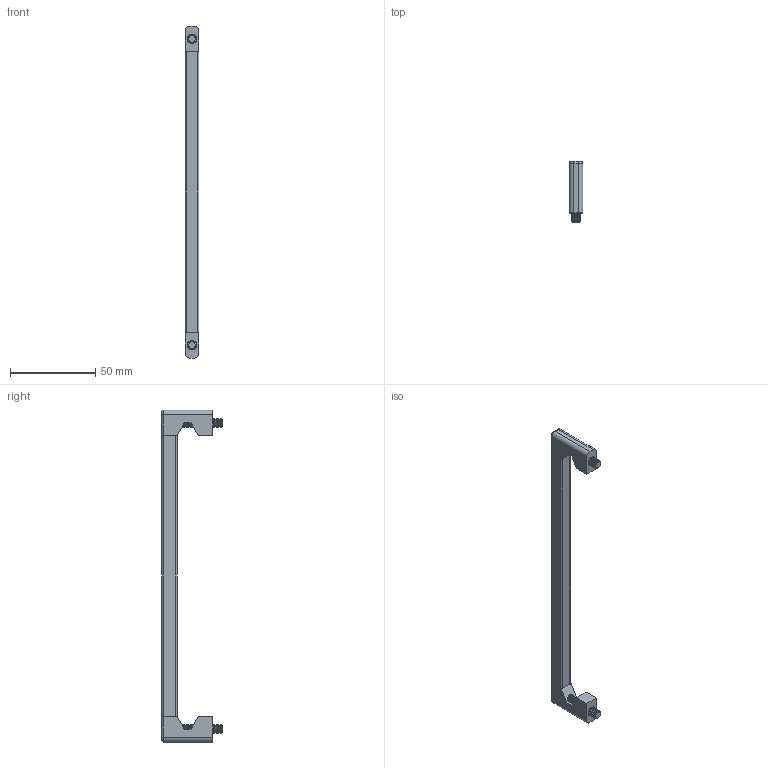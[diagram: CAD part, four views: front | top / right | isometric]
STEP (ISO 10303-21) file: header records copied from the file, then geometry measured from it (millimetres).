
FILE_DESCRIPTION (( 'STEP AP203' ), '1' );
FILE_NAME ('79350.W0380-1.step', '2018-04-28T14:54:26', ( '' ), ( '' ), 'SwSTEP 2.0', 'SolidWorks 2017', '' );
FILE_SCHEMA (( 'CONFIG_CONTROL_DESIGN' ));
Length unit declared in the file: millimetre
Products named in the file (4): 79350.W0380-1; Part2; Part3_79350.W0380-1; SHCS_1_M5x45
Assembly tree (5 placements, depth 2):
  79350.W0380-1
    Part3_79350.W0380-1
    Part2  x2
    SHCS_1_M5x45  x2
Bounding box: 8 x 35.5 x 195 mm (x, y, z)
Volume: 16454.7 mm3; surface area: 12779.8 mm2
Topology: 5 solids, 5 shells, 388 faces, 842 edges, 462 vertices
Faces by surface type: cone 264, plane 76, cylinder 44, torus 4
Entity records: 5931 total; most frequent: DIRECTION 1047, CARTESIAN_POINT 931, ORIENTED_EDGE 886, EDGE_CURVE 443, AXIS2_PLACEMENT_3D 399, LINE 249, VECTOR 249, VERTEX_POINT 247
